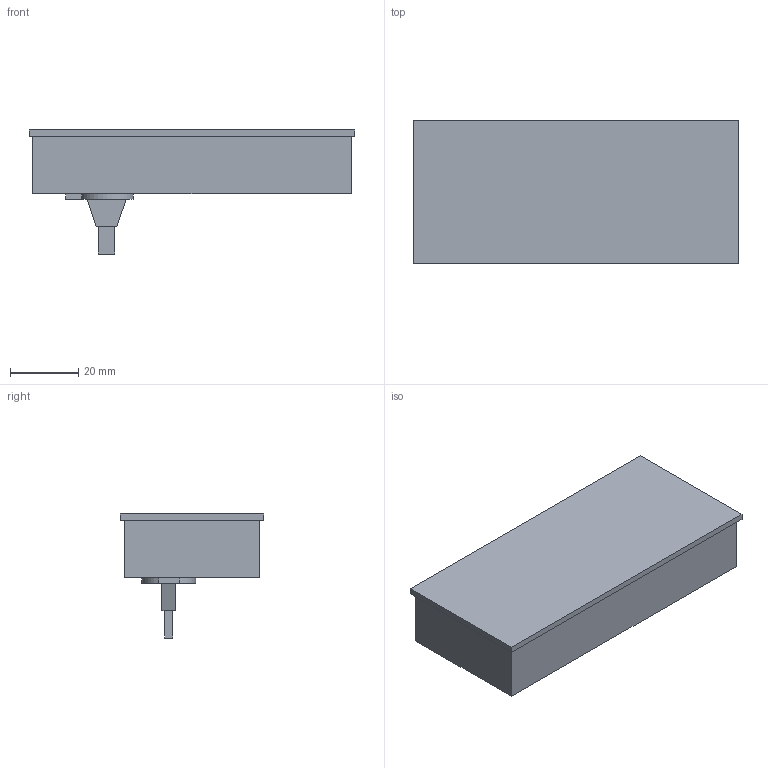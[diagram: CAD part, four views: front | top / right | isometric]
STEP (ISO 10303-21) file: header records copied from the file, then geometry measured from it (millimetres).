
FILE_DESCRIPTION( ( 'STEP AP214' ), '1' );
FILE_NAME( 'C:/Users/KOSH/Desktop/Final Delta 2020/ref/Cabinet Interior/Exp/9155201.stp', '2020-12-26T10:22:44', ( '' ), ( '' ), ' ', 'PARTsolutions', ' ' );
FILE_SCHEMA( ( 'AUTOMOTIVE_DESIGN { 1 0 10303 214 1 1 1 1 }' ) );
Length unit declared in the file: millimetre
Products named in the file (1): _9155201
Bounding box: 95.4 x 42 x 36.3 mm (x, y, z)
Volume: 70400.1 mm3; surface area: 13391.5 mm2
Topology: 1 solids, 1 shells, 26 faces, 60 edges, 40 vertices
Faces by surface type: plane 25, cylinder 1
Entity records: 950 total; most frequent: CARTESIAN_POINT 127, ORIENTED_EDGE 120, DIRECTION 116, EDGE_CURVE 60, LINE 58, VECTOR 58, VERTEX_POINT 40, EDGE_LOOP 30
